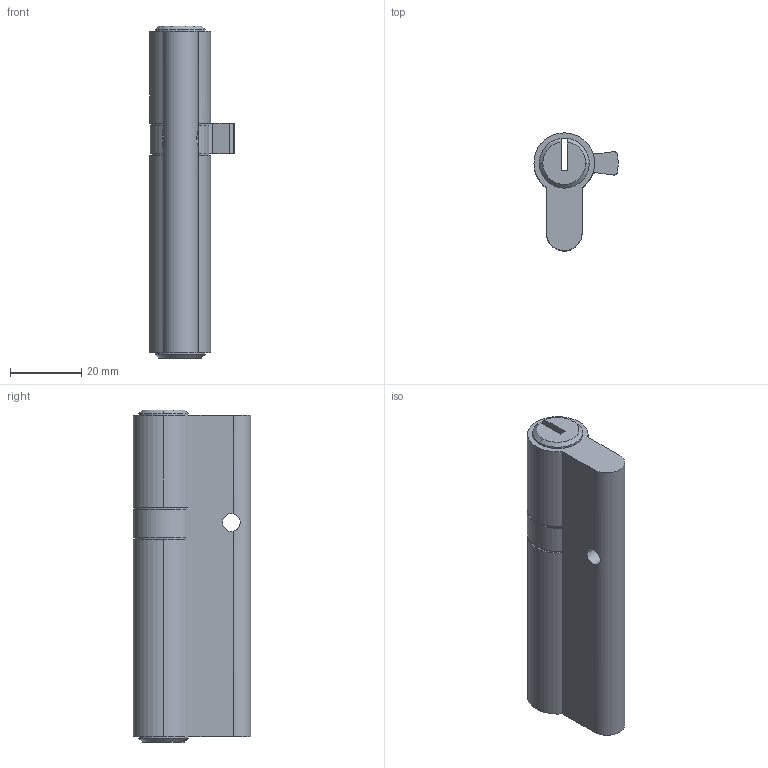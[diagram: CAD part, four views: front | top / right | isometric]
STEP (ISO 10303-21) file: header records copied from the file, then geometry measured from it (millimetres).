
FILE_DESCRIPTION (( 'STEP AP214' ), '1' );
FILE_NAME ('TPL-H-EU-521-L 29Oct2024.STEP', '2024-10-29T22:28:15', ( '' ), ( '' ), 'SwSTEP 2.0', 'SolidWorks 2023', '' );
FILE_SCHEMA (( 'AUTOMOTIVE_DESIGN' ));
Length unit declared in the file: millimetre
Products named in the file (1): TPL-H-EU-521-L 29Oct2024
Bounding box: 23.58 x 33 x 93 mm (x, y, z)
Volume: 33361 mm3; surface area: 10738 mm2
Topology: 1 solids, 1 shells, 51 faces, 141 edges, 88 vertices
Faces by surface type: cylinder 29, plane 16, cone 6
Entity records: 1740 total; most frequent: CARTESIAN_POINT 357, DIRECTION 307, ORIENTED_EDGE 282, EDGE_CURVE 141, AXIS2_PLACEMENT_3D 122, VERTEX_POINT 88, CIRCLE 70, VECTOR 63
